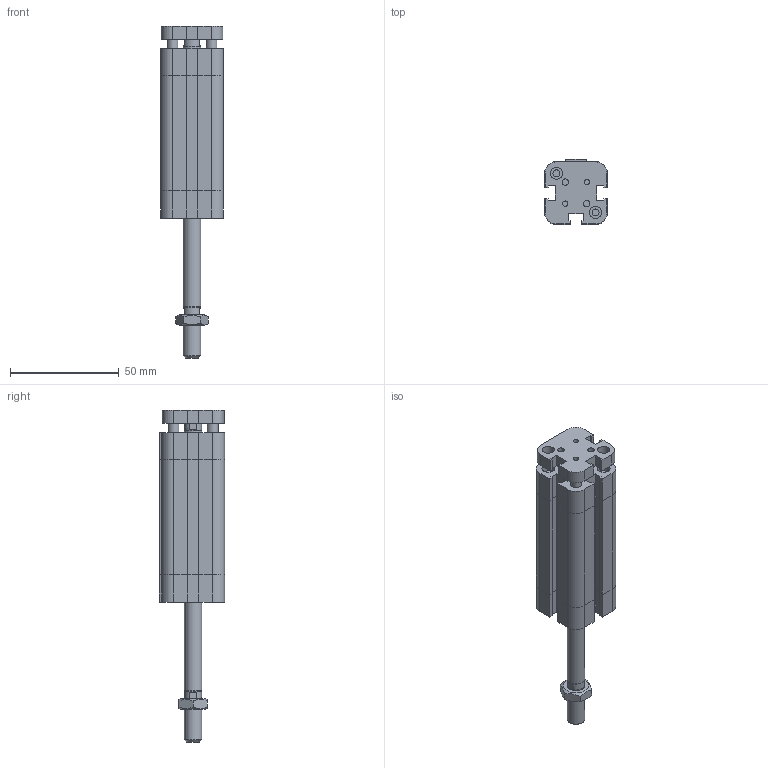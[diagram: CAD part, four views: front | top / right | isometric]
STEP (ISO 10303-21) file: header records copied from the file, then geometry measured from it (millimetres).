
FILE_DESCRIPTION((''),'2;1');
FILE_NAME('I:\Area Tecnica\Disegni\VARIE-3D\Componenti\EUROPE\15##_###_####_09_#\1581_16_0040_09_1.iam.stp','2009-04-20T15:42:49',(''),(''),'Autodesk Inventor 2009','Autodesk Inventor 2009','');
FILE_SCHEMA(('AUTOMOTIVE_DESIGN { 1 0 10303 214 1 1 1 1 }'));
Length unit declared in the file: millimetre
Products named in the file (4): 1581_16_0040_09_1; 1581_16_0040_08_1_C; 1561_16_0040_09_1_SA; DBM8
Assembly tree (3 placements, depth 2):
  1581_16_0040_09_1
    1581_16_0040_08_1_C
    1561_16_0040_09_1_SA
    DBM8
Bounding box: 29 x 30 x 153 mm (x, y, z)
Volume: 64983.7 mm3; surface area: 25461.5 mm2
Topology: 3 solids, 3 shells, 223 faces, 523 edges, 326 vertices
Faces by surface type: plane 144, bspline 46, cylinder 23, cone 10
Full cylindrical faces by diameter (mm): 5 x2, 6.5 x1, 7.8 x2, 8 x2
Entity records: 6544 total; most frequent: CARTESIAN_POINT 1548, ORIENTED_EDGE 934, DIRECTION 916, EDGE_CURVE 467, VECTOR 346, LINE 346, VERTEX_POINT 309, EDGE_LOOP 298
